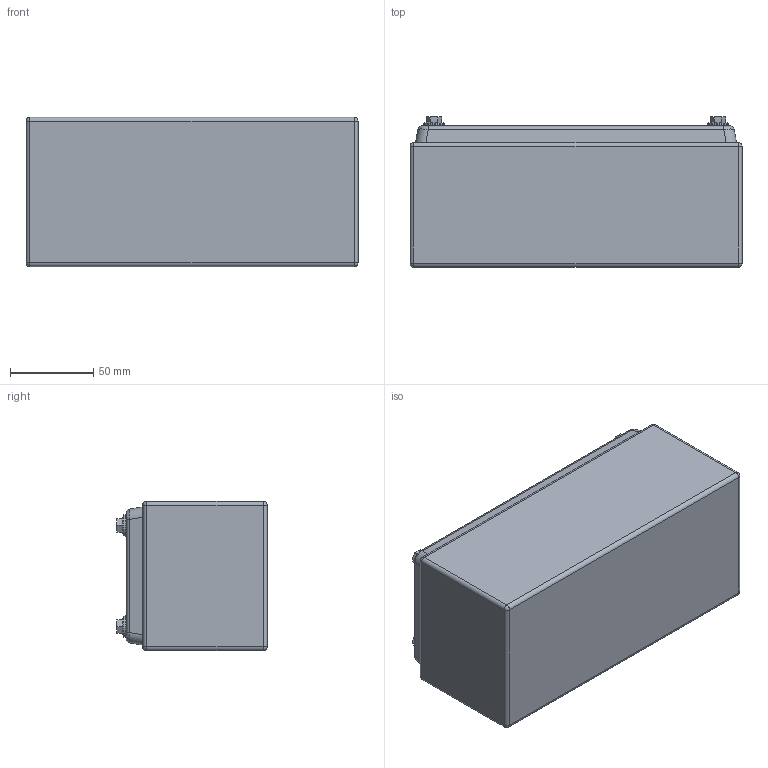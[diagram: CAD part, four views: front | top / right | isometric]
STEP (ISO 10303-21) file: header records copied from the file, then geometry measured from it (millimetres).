
FILE_DESCRIPTION (( 'STEP AP203' ), '1' );
FILE_NAME ('DE03-304A.STEP', '2021-02-23T13:03:59', ( '' ), ( '' ), 'SwSTEP 2.0', 'SolidWorks 2020', '' );
FILE_SCHEMA (( 'CONFIG_CONTROL_DESIGN' ));
Length unit declared in the file: millimetre
Products named in the file (1): DE03-304A
Bounding box: 200 x 90.6 x 90 mm (x, y, z)
Volume: 157030.6 mm3; surface area: 212290.4 mm2
Topology: 20 solids, 20 shells, 478 faces, 1133 edges, 716 vertices
Faces by surface type: plane 253, cylinder 173, cone 20, bspline 16, sphere 16
Entity records: 15094 total; most frequent: CARTESIAN_POINT 4012, DIRECTION 2289, ORIENTED_EDGE 2234, EDGE_CURVE 1117, AXIS2_PLACEMENT_3D 801, VERTEX_POINT 716, VECTOR 687, LINE 687
